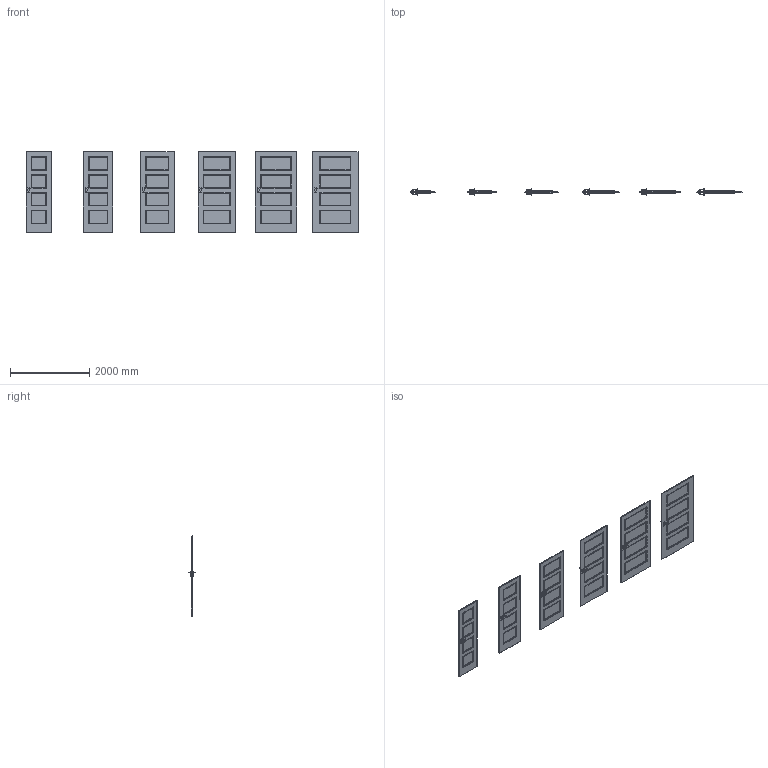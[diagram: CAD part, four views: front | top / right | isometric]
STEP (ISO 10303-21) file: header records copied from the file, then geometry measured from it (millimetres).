
FILE_DESCRIPTION(/* description */ (''),/* implementation_level */ '2;1');
FILE_NAME(/* name */ '050205_A_2-Skrzydło FIT model H_ polska norma _PN__ przylgowe..stp',/* time_stamp */ '2025-01-07T08:45:44+01:00',/* author */ (''),/* organization */ (''),/* preprocessor_version */ 'ST-DEVELOPER v16',/* originating_system */ 'SIEMENS PLM Software NX 11.0',/* authorisation */ '');
FILE_SCHEMA (('AUTOMOTIVE_DESIGN { 1 0 10303 214 3 1 1 1 }'));
Products named in the file (1): bkni16DCB670pjjb
Bounding box: 8394 x 153.27 x 2030 mm (x, y, z)
Volume: 273369106.5 mm3; surface area: 26924704.2 mm2
Topology: 30 solids, 54 shells, 4056 faces, 10116 edges, 5808 vertices
Faces by surface type: plane 2376, bspline 1152, cylinder 360, sphere 168
Entity records: 185415 total; most frequent: CARTESIAN_POINT 97633, ORIENTED_EDGE 19896, DIRECTION 14918, EDGE_CURVE 9948, VERTEX_POINT 5808, LINE 5748, VECTOR 5748, AXIS2_PLACEMENT_3D 4585
